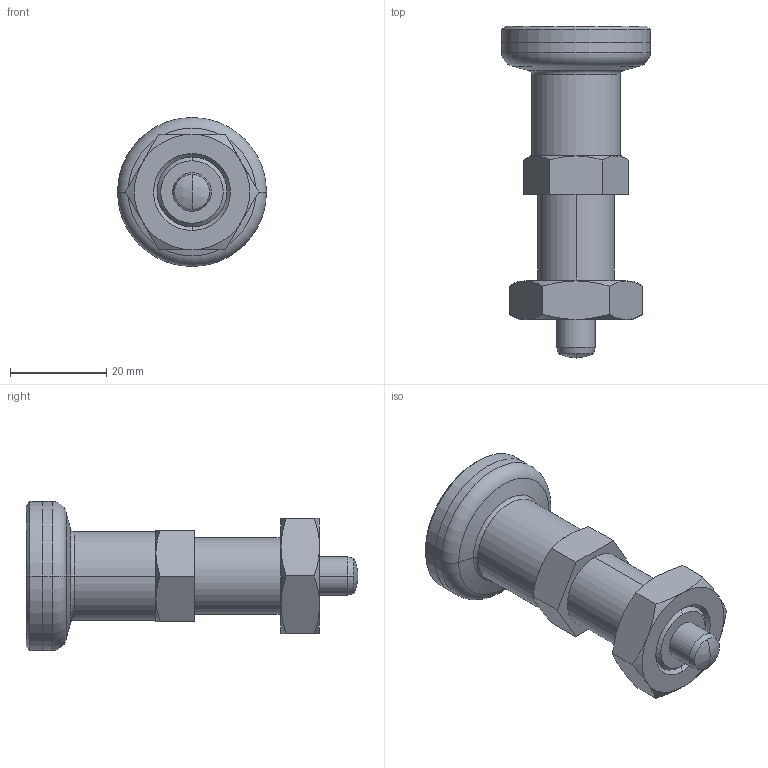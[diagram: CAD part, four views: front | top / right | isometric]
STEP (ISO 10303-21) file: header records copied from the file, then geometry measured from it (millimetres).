
FILE_DESCRIPTION (( 'STEP AP214' ), '1' );
FILE_NAME ('617-8-AKN-NI.step', '2025-04-01T06:07:29', ( '' ), ( '' ), 'SwSTEP 2.0', 'SolidWorks 2022', '' );
FILE_SCHEMA (( 'AUTOMOTIVE_DESIGN' ));
Length unit declared in the file: millimetre
Products named in the file (4): WB617_Führung^WB617_8-B-NI; 617-8-AKN-NI; WB617_Bolzen^WB617_8-B-NI; WB617_Mutter^WB617_M16-NI
Assembly tree (3 placements, depth 2):
  617-8-AKN-NI
    WB617_Führung^WB617_8-B-NI
    WB617_Bolzen^WB617_8-B-NI
    WB617_Mutter^WB617_M16-NI
Bounding box: 31 x 69 x 31 mm (x, y, z)
Volume: 21127.4 mm3; surface area: 9159.4 mm2
Topology: 3 solids, 3 shells, 84 faces, 176 edges, 106 vertices
Faces by surface type: cone 30, plane 24, cylinder 22, torus 4, sphere 4
Entity records: 3117 total; most frequent: CARTESIAN_POINT 580, DIRECTION 408, ORIENTED_EDGE 352, AXIS2_PLACEMENT_3D 178, EDGE_CURVE 176, VERTEX_POINT 106, EDGE_LOOP 96, CIRCLE 88
